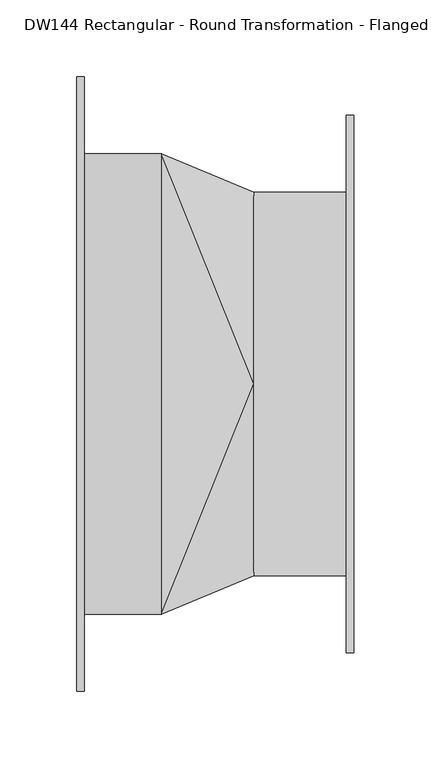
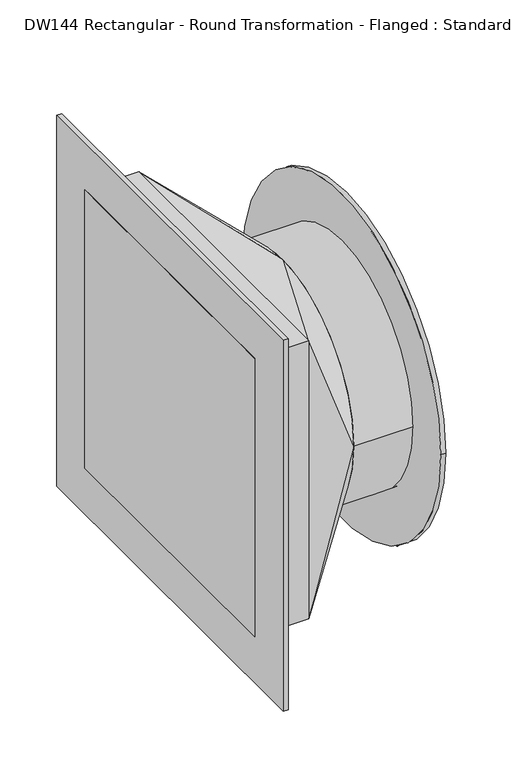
"""IFC4 building model written with IfcOpenShell, lengths in millimetres: duct fitting geometry, DW144 Rectangular - Round Transformation - Flanged : Standard."""

from ifc_helpers import new_model, si_unit, point, frame, origin, origin_2d, place, context, project, spatial, polyline, circle_curve, trimmed, segment, composite_curve, outline, extrude, source, transform, mapped, element, save
from ifc_brep_helpers import plane_surface, spline_surface, advanced_brep


def dw144_rectangular_round_transformation_flanged_standard_e04dc47c(model_context):
    return source(origin(), model_context, "Body", "SolidModel", [
        extrude(outline(composite_curve([segment(trimmed(circle_curve(origin_2d(), 125.0), [point((-125.0, 0.0))], [point((125.0, 0.0))], False, "CARTESIAN"), True, "CONTINUOUS"), segment(trimmed(circle_curve(origin_2d(), 125.0), [point((125.0, 0.0))], [point((-125.0, 0.0))], False, "CARTESIAN"), True, "CONTINUOUS")], self_intersect=False)), frame((115.3553391, 0.0, 0.0), z_axis=(1.0, 0.0, 0.0), x_axis=(0.0, 1.0, 0.0)), (0.0, 0.0, 1.0), 65.0),
        extrude(outline(polyline([(55.0, 150.0), (55.0, -150.0), (0.0, -150.0), (0.0, 150.0), (55.0, 150.0)])), frame((0.0, 0.0, -150.0), z_axis=(0.0, 0.0, 1.0), x_axis=(1.0, 0.0, 0.0)), (0.0, 0.0, 1.0), 300.0),
        advanced_brep(
        [(115.3553391, 0.0, 125.0), (115.3553391, -125.0, 0.0), (115.3553391, 0.0, -125.0), (115.3553391, 125.0, 0.0), (55.0, -150.0, 150.0), (55.0, 150.0, 150.0), (55.0, 150.0, -150.0), (55.0, -150.0, -150.0)],
        [
            (0, 1, circle_curve(frame((115.3553391, 0.0, 0.0), z_axis=(1.0, 0.0, 0.0), x_axis=(0.0, 1.0, 0.0)), 125.0)),
            (1, 2, circle_curve(frame((115.3553391, 0.0, 0.0), z_axis=(1.0, 0.0, 0.0), x_axis=(0.0, 1.0, 0.0)), 125.0)),
            (2, 3, circle_curve(frame((115.3553391, 0.0, 0.0), z_axis=(1.0, 0.0, 0.0), x_axis=(0.0, 1.0, 0.0)), 125.0)),
            (3, 0, circle_curve(frame((115.3553391, 0.0, 0.0), z_axis=(1.0, 0.0, 0.0), x_axis=(0.0, 1.0, 0.0)), 125.0)),
            (4, 5),
            (5, 6),
            (6, 7),
            (7, 4),
            (0, 4),
            (4, 1),
            (7, 1),
            (7, 2),
            (6, 2),
            (6, 3),
            (5, 3),
            (5, 0),
        ],
        [
            plane_surface(frame((115.3553391, 0.0, 0.0), z_axis=(1.0, 0.0, 0.0), x_axis=(0.0, 0.0, -1.0))),
            plane_surface(frame((55.0, 0.0, 0.0), z_axis=(-1.0, 0.0, 0.0), x_axis=(0.0, 0.0, -1.0))),
            spline_surface(2, 1, [[(55.0, -150.0, 150.0), (115.3553391, 0.0, 125.0)], [(55.0, -150.0, 150.0), (115.3553391, -125.0, 125.0)], [(55.0, -150.0, 150.0), (115.3553391, -125.0, 0.0)]], [3, 3], [2, 2], [0.0, 1.0], [0.0, 1.0], weights=[[1.0, 1.0], [0.7071067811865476, 0.7071067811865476], [1.0, 1.0]]),
            plane_surface(frame((55.0, -150.0, 0.0), z_axis=(0.38268343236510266, -0.9238795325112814, 0.0), x_axis=(0.0, 0.0, -1.0))),
            spline_surface(2, 1, [[(55.0, -150.0, -150.0), (115.3553391, -125.0, 0.0)], [(55.0, -150.0, -150.0), (115.3553391, -125.0, -125.0)], [(55.0, -150.0, -150.0), (115.3553391, 0.0, -125.0)]], [3, 3], [2, 2], [0.0, 1.0], [0.0, 1.0], weights=[[1.0, 1.0], [0.7071067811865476, 0.7071067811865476], [1.0, 1.0]]),
            plane_surface(frame((55.0, 0.0, -150.0), z_axis=(0.38268343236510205, 0.0, -0.9238795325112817), x_axis=(0.0, 1.0, 0.0))),
            spline_surface(2, 1, [[(55.0, 150.0, -150.0), (115.3553391, 0.0, -125.0)], [(55.0, 150.0, -150.0), (115.3553391, 125.0, -125.0)], [(55.0, 150.0, -150.0), (115.3553391, 125.0, 0.0)]], [3, 3], [2, 2], [0.0, 1.0], [0.0, 1.0], weights=[[1.0, 1.0], [0.7071067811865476, 0.7071067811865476], [1.0, 1.0]]),
            plane_surface(frame((55.0, 150.0, 0.0), z_axis=(0.38268343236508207, 0.92387953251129, 0.0), x_axis=(0.0, 0.0, 1.0))),
            spline_surface(2, 1, [[(55.0, 150.0, 150.0), (115.3553391, 125.0, 0.0)], [(55.0, 150.0, 150.0), (115.3553391, 125.0, 125.0)], [(55.0, 150.0, 150.0), (115.3553391, 0.0, 125.0)]], [3, 3], [2, 2], [0.0, 1.0], [0.0, 1.0], weights=[[1.0, 1.0], [0.7071067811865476, 0.7071067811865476], [1.0, 1.0]]),
            plane_surface(frame((55.0, 0.0, 150.0), z_axis=(0.38268343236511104, 0.0, 0.923879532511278), x_axis=(0.0, -1.0, 0.0))),
        ],
        [
            (0, [[1, 2, 3, 4]]),
            (1, [[5, 6, 7, 8]]),
            (2, [[-1, 9, 10]]),
            (3, [[-8, 11, -10]]),
            (4, [[-2, -11, 12]]),
            (5, [[-7, 13, -12]]),
            (6, [[-3, -13, 14]]),
            (7, [[-6, 15, -14]]),
            (8, [[-4, -15, 16]]),
            (9, [[-5, -9, -16]]),
        ],
    ),
        extrude(outline(composite_curve([segment(trimmed(circle_curve(origin_2d(), 175.0), [point((-175.0, 0.0))], [point((175.0, 0.0))], False, "CARTESIAN"), True, "CONTINUOUS"), segment(trimmed(circle_curve(origin_2d(), 175.0), [point((175.0, 0.0))], [point((-175.0, 0.0))], False, "CARTESIAN"), True, "CONTINUOUS")], self_intersect=False)), frame((175.3553391, 0.0, 0.0), z_axis=(1.0, 0.0, 0.0), x_axis=(0.0, 1.0, 0.0)), (0.0, 0.0, 1.0), 5.0),
        extrude(outline(polyline([(5.0, 200.0), (5.0, -200.0), (0.0, -200.0), (0.0, 200.0), (5.0, 200.0)])), frame((0.0, 0.0, -200.0), z_axis=(0.0, 0.0, 1.0), x_axis=(1.0, 0.0, 0.0)), (0.0, 0.0, 1.0), 400.0),
    ])


if __name__ == "__main__":
    model = new_model("IFC4")
    model_context = context("Model", 3, world=origin())
    ifc_project = project(units=[si_unit("LENGTHUNIT", "METRE", prefix="MILLI")], contexts=[model_context])
    site = spatial("IfcSite", under=ifc_project)
    building = spatial("IfcBuilding", under=site)
    placement = place(None, origin())
    dw144_rectangular_round_transformation_flanged_standard_shape = dw144_rectangular_round_transformation_flanged_standard_e04dc47c(model_context)
    element("IfcDuctFitting", 1, ObjectType="DW144 Rectangular - Round Transformation - Flanged : Standard", at=placement, inside=building, context=model_context, shape_type="MappedRepresentation", body=[
        mapped(dw144_rectangular_round_transformation_flanged_standard_shape, transform((0.0, 0.0, 0.0), x_axis=(1.0, 0.0, 0.0), y_axis=(0.0, 1.0, 0.0), z_axis=(0.0, 0.0, 1.0))),
    ])
    save(model, "model.ifc")
